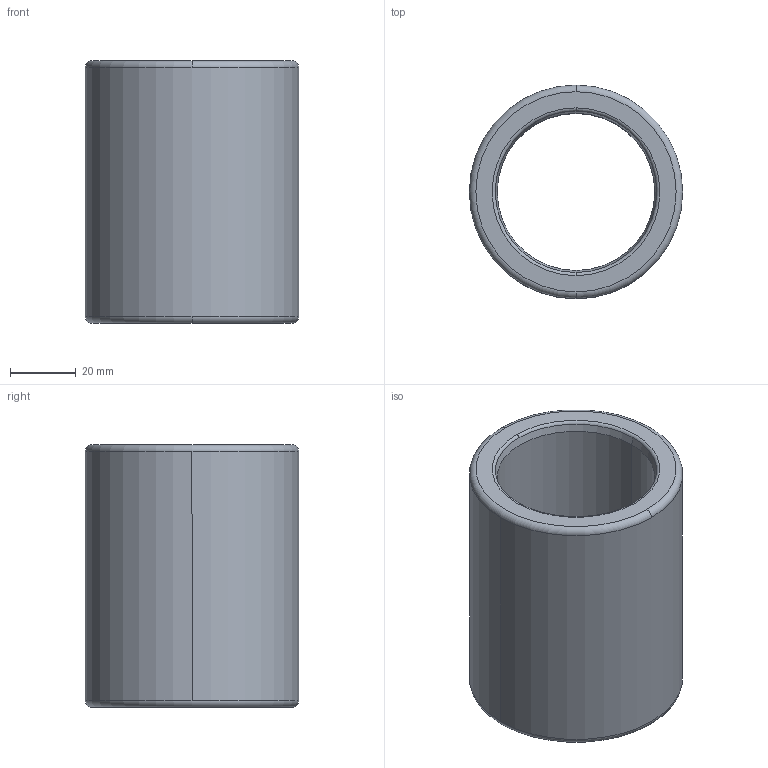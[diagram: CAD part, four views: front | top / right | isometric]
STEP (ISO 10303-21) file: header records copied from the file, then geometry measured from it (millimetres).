
FILE_DESCRIPTION((''),'2;1');
FILE_NAME('B30_040_080.stp','2009-01-12T10:49:28',(''),(''),'Mechanical Desktop 2009','Mechanical Desktop 2009',', , ');
FILE_SCHEMA(('CONFIG_CONTROL_DESIGN'));
Length unit declared in the file: millimetre
Products named in the file (2): Product; blmdl1
Assembly tree (1 placements, depth 2):
  Product
    blmdl1
Bounding box: 64.99 x 64.99 x 80 mm (x, y, z)
Volume: 120079.1 mm3; surface area: 30782.9 mm2
Topology: 1 solids, 1 shells, 18 faces, 48 edges, 32 vertices
Faces by surface type: torus 8, cylinder 4, cone 4, plane 2
Entity records: 705 total; most frequent: DIRECTION 128, CARTESIAN_POINT 100, ORIENTED_EDGE 96, AXIS2_PLACEMENT_3D 60, EDGE_CURVE 48, CIRCLE 40, VERTEX_POINT 32, EDGE_LOOP 20
